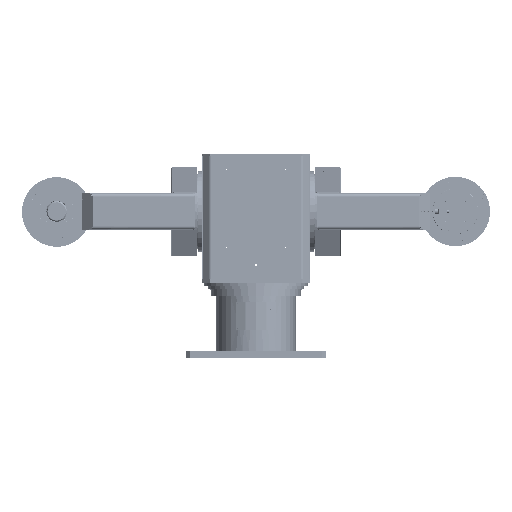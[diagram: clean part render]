
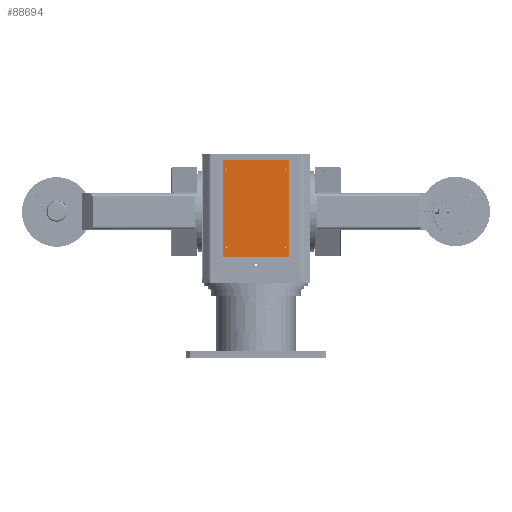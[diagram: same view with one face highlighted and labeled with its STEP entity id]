
A CAD part, top view. The second image highlights one B-rep face of the part: STEP entity #88694.
In plain terms, the highlighted planar face has unit normal (0, 0, 1).
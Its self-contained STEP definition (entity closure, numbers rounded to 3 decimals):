
#88512 = VERTEX_POINT ( 'NONE', #154943 ) ;
#88517 = EDGE_CURVE ( 'NONE', #88512, #88518, #154934, .T. ) ;
#88518 = VERTEX_POINT ( 'NONE', #154927 ) ;
#88603 = VERTEX_POINT ( 'NONE', #154997 ) ;
#88628 = EDGE_CURVE ( 'NONE', #88518, #88512, #154955, .T. ) ;
#88665 = VERTEX_POINT ( 'NONE', #155443 ) ;
#88674 = EDGE_CURVE ( 'NONE', #88675, #88665, #155441, .T. ) ;
#88675 = VERTEX_POINT ( 'NONE', #155433 ) ;
#88694 = ADVANCED_FACE ( 'NONE', ( #155820, #155818, #155817, #155816, #155815 ), #155783, .F. ) ;
#88695 = EDGE_LOOP ( 'NONE', ( #90637, #90713 ) ) ;
#88783 = EDGE_CURVE ( 'NONE', #88799, #88967, #155618, .T. ) ;
#88797 = EDGE_CURVE ( 'NONE', #88967, #88799, #156039, .T. ) ;
#88799 = VERTEX_POINT ( 'NONE', #156033 ) ;
#88898 = EDGE_CURVE ( 'NONE', #89291, #88900, #156717, .T. ) ;
#88900 = VERTEX_POINT ( 'NONE', #156711 ) ;
#88967 = VERTEX_POINT ( 'NONE', #157230 ) ;
#89097 = EDGE_CURVE ( 'NONE', #88603, #89099, #157312, .T. ) ;
#89099 = VERTEX_POINT ( 'NONE', #157486 ) ;
#89165 = VERTEX_POINT ( 'NONE', #157881 ) ;
#89174 = EDGE_CURVE ( 'NONE', #89175, #89165, #157697, .T. ) ;
#89175 = VERTEX_POINT ( 'NONE', #157672 ) ;
#89291 = VERTEX_POINT ( 'NONE', #158861 ) ;
#90212 = ORIENTED_EDGE ( 'NONE', *, *, #88674, .T. ) ;
#90218 = ORIENTED_EDGE ( 'NONE', *, *, #88797, .F. ) ;
#90219 = EDGE_LOOP ( 'NONE', ( #90222, #90229 ) ) ;
#90222 = ORIENTED_EDGE ( 'NONE', *, *, #88628, .F. ) ;
#90229 = ORIENTED_EDGE ( 'NONE', *, *, #88517, .F. ) ;
#90232 = ORIENTED_EDGE ( 'NONE', *, *, #90237, .T. ) ;
#90237 = EDGE_CURVE ( 'NONE', #88665, #89175, #161876, .T. ) ;
#90241 = ORIENTED_EDGE ( 'NONE', *, *, #88898, .F. ) ;
#90520 = ORIENTED_EDGE ( 'NONE', *, *, #90523, .F. ) ;
#90523 = EDGE_CURVE ( 'NONE', #88900, #89291, #162590, .T. ) ;
#90526 = EDGE_LOOP ( 'NONE', ( #90700, #90212, #90232, #90754 ) ) ;
#90637 = ORIENTED_EDGE ( 'NONE', *, *, #90668, .F. ) ;
#90668 = EDGE_CURVE ( 'NONE', #89099, #88603, #163220, .T. ) ;
#90700 = ORIENTED_EDGE ( 'NONE', *, *, #90701, .T. ) ;
#90701 = EDGE_CURVE ( 'NONE', #89165, #88675, #163364, .T. ) ;
#90713 = ORIENTED_EDGE ( 'NONE', *, *, #89097, .F. ) ;
#90722 = EDGE_LOOP ( 'NONE', ( #90520, #90241 ) ) ;
#90754 = ORIENTED_EDGE ( 'NONE', *, *, #89174, .T. ) ;
#90755 = EDGE_LOOP ( 'NONE', ( #90760, #90218 ) ) ;
#90760 = ORIENTED_EDGE ( 'NONE', *, *, #88783, .F. ) ;
#154927 = CARTESIAN_POINT ( 'NONE',  ( 214.25, 100., 444. ) ) ;
#154929 = DIRECTION ( 'NONE',  ( 1., 0., 0. ) ) ;
#154930 = DIRECTION ( 'NONE',  ( 0., 0., 1. ) ) ;
#154931 = CARTESIAN_POINT ( 'NONE',  ( 210., 100., 444. ) ) ;
#154932 = AXIS2_PLACEMENT_3D ( 'NONE', #154931, #154930, #154929 ) ;
#154934 = CIRCLE ( 'NONE', #154932, 4.25 ) ;
#154943 = CARTESIAN_POINT ( 'NONE',  ( 205.75, 100., 444. ) ) ;
#154951 = CARTESIAN_POINT ( 'NONE',  ( 210., 100., 444. ) ) ;
#154953 = AXIS2_PLACEMENT_3D ( 'NONE', #154951, #155339, #155337 ) ;
#154955 = CIRCLE ( 'NONE', #154953, 4.25 ) ;
#154997 = CARTESIAN_POINT ( 'NONE',  ( -214.25, 100., 444. ) ) ;
#155337 = DIRECTION ( 'NONE',  ( 1., 0., 0. ) ) ;
#155339 = DIRECTION ( 'NONE',  ( 0., 0., 1. ) ) ;
#155433 = CARTESIAN_POINT ( 'NONE',  ( 235., 730., 444. ) ) ;
#155435 = DIRECTION ( 'NONE',  ( -1., 0., 0. ) ) ;
#155436 = VECTOR ( 'NONE', #155435, 1000. ) ;
#155439 = CARTESIAN_POINT ( 'NONE',  ( 235., 730., 444. ) ) ;
#155441 = LINE ( 'NONE', #155439, #155436 ) ;
#155443 = CARTESIAN_POINT ( 'NONE',  ( -235., 730., 444. ) ) ;
#155567 = DIRECTION ( 'NONE',  ( -1., 0., 0. ) ) ;
#155569 = DIRECTION ( 'NONE',  ( 0., 0., -1. ) ) ;
#155570 = CARTESIAN_POINT ( 'NONE',  ( 235., 30., 444. ) ) ;
#155571 = AXIS2_PLACEMENT_3D ( 'NONE', #155570, #155569, #155567 ) ;
#155611 = DIRECTION ( 'NONE',  ( 1., 0., 0. ) ) ;
#155614 = DIRECTION ( 'NONE',  ( 0., 0., 1. ) ) ;
#155616 = CARTESIAN_POINT ( 'NONE',  ( 210., 660., 444. ) ) ;
#155617 = AXIS2_PLACEMENT_3D ( 'NONE', #155616, #155614, #155611 ) ;
#155618 = CIRCLE ( 'NONE', #155617, 4.25 ) ;
#155783 = PLANE ( 'NONE',  #155571 ) ;
#155815 = FACE_BOUND ( 'NONE', #90219, .T. ) ;
#155816 = FACE_BOUND ( 'NONE', #90755, .T. ) ;
#155817 = FACE_OUTER_BOUND ( 'NONE', #90526, .T. ) ;
#155818 = FACE_BOUND ( 'NONE', #90722, .T. ) ;
#155820 = FACE_BOUND ( 'NONE', #88695, .T. ) ;
#156033 = CARTESIAN_POINT ( 'NONE',  ( 214.25, 660., 444. ) ) ;
#156034 = DIRECTION ( 'NONE',  ( 1., 0., 0. ) ) ;
#156035 = DIRECTION ( 'NONE',  ( 0., 0., 1. ) ) ;
#156036 = CARTESIAN_POINT ( 'NONE',  ( 210., 660., 444. ) ) ;
#156038 = AXIS2_PLACEMENT_3D ( 'NONE', #156036, #156035, #156034 ) ;
#156039 = CIRCLE ( 'NONE', #156038, 4.25 ) ;
#156671 = CARTESIAN_POINT ( 'NONE',  ( -210., 660., 444. ) ) ;
#156711 = CARTESIAN_POINT ( 'NONE',  ( -205.75, 660., 444. ) ) ;
#156714 = DIRECTION ( 'NONE',  ( 1., 0., 0. ) ) ;
#156715 = DIRECTION ( 'NONE',  ( 0., 0., 1. ) ) ;
#156716 = AXIS2_PLACEMENT_3D ( 'NONE', #156671, #156715, #156714 ) ;
#156717 = CIRCLE ( 'NONE', #156716, 4.25 ) ;
#157230 = CARTESIAN_POINT ( 'NONE',  ( 205.75, 660., 444. ) ) ;
#157297 = DIRECTION ( 'NONE',  ( 1., 0., 0. ) ) ;
#157299 = DIRECTION ( 'NONE',  ( 0., 0., 1. ) ) ;
#157301 = CARTESIAN_POINT ( 'NONE',  ( -210., 100., 444. ) ) ;
#157302 = AXIS2_PLACEMENT_3D ( 'NONE', #157301, #157299, #157297 ) ;
#157312 = CIRCLE ( 'NONE', #157302, 4.25 ) ;
#157486 = CARTESIAN_POINT ( 'NONE',  ( -205.75, 100., 444. ) ) ;
#157672 = CARTESIAN_POINT ( 'NONE',  ( -235., 30., 444. ) ) ;
#157675 = DIRECTION ( 'NONE',  ( 1., 0., 0. ) ) ;
#157676 = VECTOR ( 'NONE', #157675, 1000. ) ;
#157678 = CARTESIAN_POINT ( 'NONE',  ( 235., 30., 444. ) ) ;
#157697 = LINE ( 'NONE', #157678, #157676 ) ;
#157881 = CARTESIAN_POINT ( 'NONE',  ( 235., 30., 444. ) ) ;
#158861 = CARTESIAN_POINT ( 'NONE',  ( -214.25, 660., 444. ) ) ;
#161873 = DIRECTION ( 'NONE',  ( 0., -1., 0. ) ) ;
#161874 = VECTOR ( 'NONE', #161873, 1000. ) ;
#161875 = CARTESIAN_POINT ( 'NONE',  ( -235., 730., 444. ) ) ;
#161876 = LINE ( 'NONE', #161875, #161874 ) ;
#162586 = DIRECTION ( 'NONE',  ( 1., 0., 0. ) ) ;
#162587 = DIRECTION ( 'NONE',  ( 0., 0., 1. ) ) ;
#162588 = CARTESIAN_POINT ( 'NONE',  ( -210., 660., 444. ) ) ;
#162589 = AXIS2_PLACEMENT_3D ( 'NONE', #162588, #162587, #162586 ) ;
#162590 = CIRCLE ( 'NONE', #162589, 4.25 ) ;
#163210 = DIRECTION ( 'NONE',  ( 1., 0., 0. ) ) ;
#163211 = DIRECTION ( 'NONE',  ( 0., 0., 1. ) ) ;
#163214 = CARTESIAN_POINT ( 'NONE',  ( -210., 100., 444. ) ) ;
#163215 = AXIS2_PLACEMENT_3D ( 'NONE', #163214, #163211, #163210 ) ;
#163220 = CIRCLE ( 'NONE', #163215, 4.25 ) ;
#163361 = DIRECTION ( 'NONE',  ( 0., 1., 0. ) ) ;
#163362 = VECTOR ( 'NONE', #163361, 1000. ) ;
#163363 = CARTESIAN_POINT ( 'NONE',  ( 235., 730., 444. ) ) ;
#163364 = LINE ( 'NONE', #163363, #163362 ) ;
